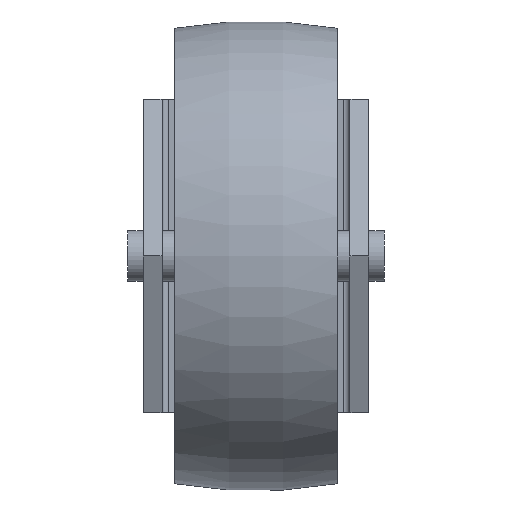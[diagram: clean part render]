
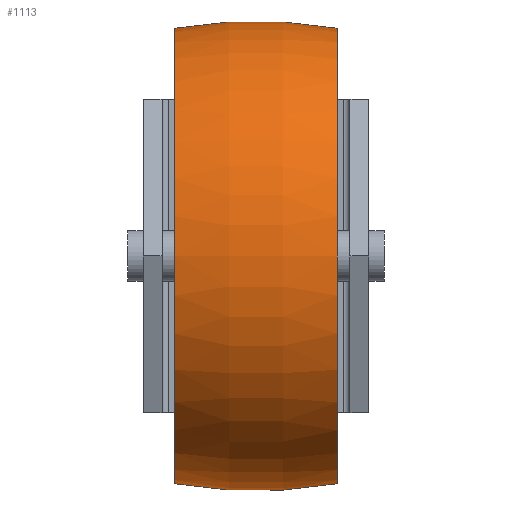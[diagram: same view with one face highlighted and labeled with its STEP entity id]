
A CAD part, front view. The second image highlights one B-rep face of the part: STEP entity #1113.
In plain terms, the highlighted toroidal (fillet/blend) face has major radius 37.5 mm and minor radius 75 mm.
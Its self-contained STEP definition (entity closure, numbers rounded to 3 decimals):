
#31 = VERTEX_POINT ( 'NONE', #334 ) ;
#76 = CARTESIAN_POINT ( 'NONE',  ( -13., -63.5, 0. ) ) ;
#111 = DIRECTION ( 'NONE',  ( 1., 0., 0. ) ) ;
#190 = FACE_OUTER_BOUND ( 'NONE', #900, .T. ) ;
#197 = DIRECTION ( 'NONE',  ( 0., 0., -1. ) ) ;
#203 = ORIENTED_EDGE ( 'NONE', *, *, #475, .F. ) ;
#205 = DIRECTION ( 'NONE',  ( 0., 0., -1. ) ) ;
#300 = CIRCLE ( 'NONE', #612, 36.365 ) ;
#326 = CARTESIAN_POINT ( 'NONE',  ( -13., -63.5, 36.365 ) ) ;
#334 = CARTESIAN_POINT ( 'NONE',  ( 13., -63.5, 36.365 ) ) ;
#339 = VERTEX_POINT ( 'NONE', #682 ) ;
#370 = CARTESIAN_POINT ( 'NONE',  ( 13., -63.5, -36.365 ) ) ;
#372 = ORIENTED_EDGE ( 'NONE', *, *, #976, .T. ) ;
#389 = EDGE_CURVE ( 'NONE', #31, #1110, #1062, .T. ) ;
#409 = VERTEX_POINT ( 'NONE', #326 ) ;
#475 = EDGE_CURVE ( 'NONE', #409, #31, #1134, .T. ) ;
#476 = AXIS2_PLACEMENT_3D ( 'NONE', #890, #973, #197 ) ;
#521 = CARTESIAN_POINT ( 'NONE',  ( 0., -63.5, -37.5 ) ) ;
#566 = AXIS2_PLACEMENT_3D ( 'NONE', #1097, #1034, #936 ) ;
#612 = AXIS2_PLACEMENT_3D ( 'NONE', #76, #1116, #933 ) ;
#655 = EDGE_CURVE ( 'NONE', #339, #1110, #806, .T. ) ;
#682 = CARTESIAN_POINT ( 'NONE',  ( -13., -63.5, -36.365 ) ) ;
#733 = AXIS2_PLACEMENT_3D ( 'NONE', #521, #943, #774 ) ;
#774 = DIRECTION ( 'NONE',  ( 0., 0., 1. ) ) ;
#806 = CIRCLE ( 'NONE', #476, 75. ) ;
#890 = CARTESIAN_POINT ( 'NONE',  ( 0., -63.5, 37.5 ) ) ;
#900 = EDGE_LOOP ( 'NONE', ( #203, #372, #1095, #1017 ) ) ;
#933 = DIRECTION ( 'NONE',  ( 0., 0., -1. ) ) ;
#936 = DIRECTION ( 'NONE',  ( 0., 0., -1. ) ) ;
#943 = DIRECTION ( 'NONE',  ( 0., 1., 0. ) ) ;
#973 = DIRECTION ( 'NONE',  ( 0., -1., 0. ) ) ;
#976 = EDGE_CURVE ( 'NONE', #409, #339, #300, .T. ) ;
#994 = AXIS2_PLACEMENT_3D ( 'NONE', #1061, #111, #205 ) ;
#1014 = TOROIDAL_SURFACE ( 'NONE', #994, -37.5, 75. ) ;
#1017 = ORIENTED_EDGE ( 'NONE', *, *, #389, .F. ) ;
#1034 = DIRECTION ( 'NONE',  ( 1., 0., 0. ) ) ;
#1061 = CARTESIAN_POINT ( 'NONE',  ( 0., -63.5, 0. ) ) ;
#1062 = CIRCLE ( 'NONE', #566, 36.365 ) ;
#1095 = ORIENTED_EDGE ( 'NONE', *, *, #655, .T. ) ;
#1097 = CARTESIAN_POINT ( 'NONE',  ( 13., -63.5, 0. ) ) ;
#1110 = VERTEX_POINT ( 'NONE', #370 ) ;
#1113 = ADVANCED_FACE ( 'NONE', ( #190 ), #1014, .T. ) ;
#1116 = DIRECTION ( 'NONE',  ( 1., 0., 0. ) ) ;
#1134 = CIRCLE ( 'NONE', #733, 75. ) ;
